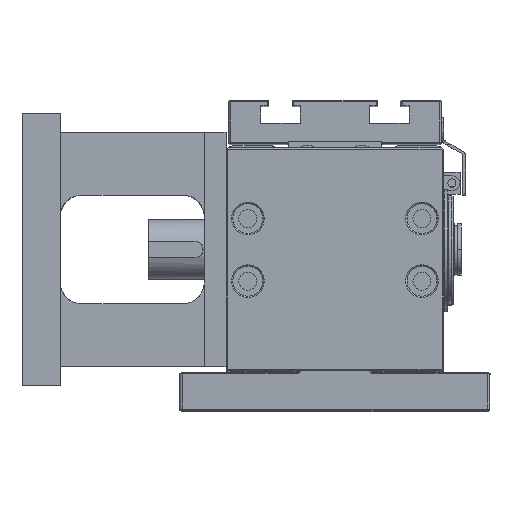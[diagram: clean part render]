
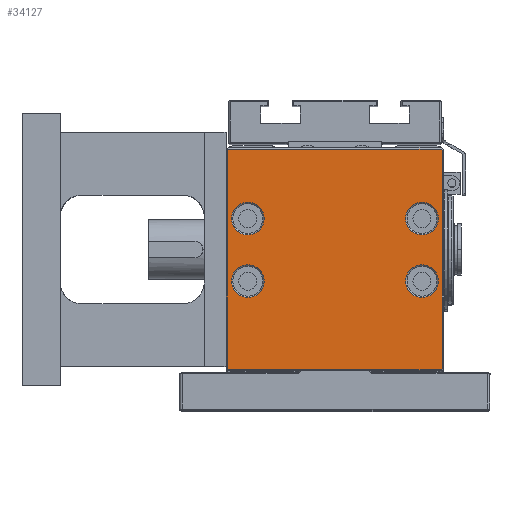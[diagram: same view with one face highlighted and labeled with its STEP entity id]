
A CAD part, top view. The second image highlights one B-rep face of the part: STEP entity #34127.
In plain terms, the highlighted planar face has unit normal (0, 0, 1).
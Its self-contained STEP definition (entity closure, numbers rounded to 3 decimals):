
#33231=CARTESIAN_POINT('',(-39.,81.,8.));
#33232=DIRECTION('',(0.,0.,-1.));
#33233=DIRECTION('',(-1.,0.,0.));
#33234=AXIS2_PLACEMENT_3D('',#33231,#33232,#33233);
#33236=DIRECTION('',(1.,0.,0.));
#33237=VECTOR('',#33236,78.);
#33238=CARTESIAN_POINT('',(-39.,81.5,
8.));
#33239=LINE('',#33238,#33237);
#33240=CARTESIAN_POINT('',(39.,81.,8.));
#33241=DIRECTION('',(0.,0.,-1.));
#33242=DIRECTION('',(0.,1.,0.));
#33243=AXIS2_PLACEMENT_3D('',#33240,#33241,#33242);
#33245=DIRECTION('',(0.,-1.,0.));
#33246=VECTOR('',#33245,80.);
#33247=CARTESIAN_POINT('',(39.5,81.,8.));
#33248=LINE('',#33247,#33246);
#33249=CARTESIAN_POINT('',(39.,1.,8.));
#33250=DIRECTION('',(0.,0.,-1.));
#33251=DIRECTION('',(1.,0.,0.));
#33252=AXIS2_PLACEMENT_3D('',#33249,#33250,#33251);
#33254=DIRECTION('',(-1.,0.,0.));
#33255=VECTOR('',#33254,78.);
#33256=CARTESIAN_POINT('',(39.,0.5,
8.));
#33257=LINE('',#33256,#33255);
#33258=CARTESIAN_POINT('',(-39.,1.,8.));
#33259=DIRECTION('',(0.,0.,-1.));
#33260=DIRECTION('',(0.,-1.,0.));
#33261=AXIS2_PLACEMENT_3D('',#33258,#33259,#33260);
#33263=DIRECTION('',(0.,1.,0.));
#33264=VECTOR('',#33263,80.);
#33265=CARTESIAN_POINT('',(-39.5,1.,
8.));
#33266=LINE('',#33265,#33264);
#33267=CARTESIAN_POINT('',(32.,56.,8.));
#33268=DIRECTION('',(0.,0.,1.));
#33269=DIRECTION('',(1.,0.,0.));
#33270=AXIS2_PLACEMENT_3D('',#33267,#33268,#33269);
#33272=CARTESIAN_POINT('',(32.,56.,8.));
#33273=DIRECTION('',(0.,0.,1.));
#33274=DIRECTION('',(0.,1.,0.));
#33275=AXIS2_PLACEMENT_3D('',#33272,#33273,#33274);
#33277=CARTESIAN_POINT('',(32.,56.,8.));
#33278=DIRECTION('',(0.,0.,1.));
#33279=DIRECTION('',(-1.,0.,0.));
#33280=AXIS2_PLACEMENT_3D('',#33277,#33278,#33279);
#33282=CARTESIAN_POINT('',(32.,56.,8.));
#33283=DIRECTION('',(0.,0.,1.));
#33284=DIRECTION('',(0.,-1.,0.));
#33285=AXIS2_PLACEMENT_3D('',#33282,#33283,#33284);
#33287=CARTESIAN_POINT('',(-32.,56.,8.));
#33288=DIRECTION('',(0.,0.,1.));
#33289=DIRECTION('',(1.,0.,0.));
#33290=AXIS2_PLACEMENT_3D('',#33287,#33288,#33289);
#33292=CARTESIAN_POINT('',(-32.,56.,8.));
#33293=DIRECTION('',(0.,0.,1.));
#33294=DIRECTION('',(0.,1.,0.));
#33295=AXIS2_PLACEMENT_3D('',#33292,#33293,#33294);
#33297=CARTESIAN_POINT('',(-32.,56.,8.));
#33298=DIRECTION('',(0.,0.,1.));
#33299=DIRECTION('',(-1.,0.,0.));
#33300=AXIS2_PLACEMENT_3D('',#33297,#33298,#33299);
#33302=CARTESIAN_POINT('',(-32.,56.,8.));
#33303=DIRECTION('',(0.,0.,1.));
#33304=DIRECTION('',(0.,-1.,0.));
#33305=AXIS2_PLACEMENT_3D('',#33302,#33303,#33304);
#33307=CARTESIAN_POINT('',(-32.,33.,8.));
#33308=DIRECTION('',(0.,0.,1.));
#33309=DIRECTION('',(1.,0.,0.));
#33310=AXIS2_PLACEMENT_3D('',#33307,#33308,#33309);
#33312=CARTESIAN_POINT('',(-32.,33.,8.));
#33313=DIRECTION('',(0.,0.,1.));
#33314=DIRECTION('',(0.,1.,0.));
#33315=AXIS2_PLACEMENT_3D('',#33312,#33313,#33314);
#33317=CARTESIAN_POINT('',(-32.,33.,8.));
#33318=DIRECTION('',(0.,0.,1.));
#33319=DIRECTION('',(-1.,0.,0.));
#33320=AXIS2_PLACEMENT_3D('',#33317,#33318,#33319);
#33322=CARTESIAN_POINT('',(-32.,33.,8.));
#33323=DIRECTION('',(0.,0.,1.));
#33324=DIRECTION('',(0.,-1.,0.));
#33325=AXIS2_PLACEMENT_3D('',#33322,#33323,#33324);
#33327=CARTESIAN_POINT('',(32.,33.,8.));
#33328=DIRECTION('',(0.,0.,1.));
#33329=DIRECTION('',(-1.,0.,0.));
#33330=AXIS2_PLACEMENT_3D('',#33327,#33328,#33329);
#33332=CARTESIAN_POINT('',(32.,33.,8.));
#33333=DIRECTION('',(0.,0.,1.));
#33334=DIRECTION('',(0.,-1.,0.));
#33335=AXIS2_PLACEMENT_3D('',#33332,#33333,#33334);
#33337=CARTESIAN_POINT('',(32.,33.,8.));
#33338=DIRECTION('',(0.,0.,1.));
#33339=DIRECTION('',(1.,0.,0.));
#33340=AXIS2_PLACEMENT_3D('',#33337,#33338,#33339);
#33342=CARTESIAN_POINT('',(32.,33.,8.));
#33343=DIRECTION('',(0.,0.,1.));
#33344=DIRECTION('',(0.,1.,0.));
#33345=AXIS2_PLACEMENT_3D('',#33342,#33343,#33344);
#33745=CARTESIAN_POINT('',(-32.,50.,8.));
#33746=CARTESIAN_POINT('',(-26.,56.,8.));
#33747=VERTEX_POINT('',#33745);
#33748=VERTEX_POINT('',#33746);
#33749=CARTESIAN_POINT('',(-38.,56.,8.));
#33750=VERTEX_POINT('',#33749);
#33751=CARTESIAN_POINT('',(-39.5,81.,8.));
#33752=CARTESIAN_POINT('',(-39.,81.5,8.));
#33753=VERTEX_POINT('',#33751);
#33754=VERTEX_POINT('',#33752);
#33755=CARTESIAN_POINT('',(39.,81.5,8.));
#33756=VERTEX_POINT('',#33755);
#33757=CARTESIAN_POINT('',(39.5,81.,8.));
#33758=VERTEX_POINT('',#33757);
#33759=CARTESIAN_POINT('',(39.5,1.,
8.));
#33760=VERTEX_POINT('',#33759);
#33761=CARTESIAN_POINT('',(39.,0.5,8.));
#33762=VERTEX_POINT('',#33761);
#33763=CARTESIAN_POINT('',(-39.,0.5,
8.));
#33764=VERTEX_POINT('',#33763);
#33765=CARTESIAN_POINT('',(-39.5,1.,8.));
#33766=VERTEX_POINT('',#33765);
#33767=CARTESIAN_POINT('',(32.,62.,8.));
#33768=CARTESIAN_POINT('',(26.,56.,8.));
#33769=VERTEX_POINT('',#33767);
#33770=VERTEX_POINT('',#33768);
#33771=CARTESIAN_POINT('',(38.,56.,8.));
#33772=VERTEX_POINT('',#33771);
#33773=CARTESIAN_POINT('',(32.,50.,8.));
#33774=VERTEX_POINT('',#33773);
#33775=CARTESIAN_POINT('',(-32.,62.,8.));
#33776=VERTEX_POINT('',#33775);
#33777=CARTESIAN_POINT('',(-32.,39.,8.));
#33778=CARTESIAN_POINT('',(-38.,33.,8.));
#33779=VERTEX_POINT('',#33777);
#33780=VERTEX_POINT('',#33778);
#33781=CARTESIAN_POINT('',(-26.,33.,8.));
#33782=VERTEX_POINT('',#33781);
#33783=CARTESIAN_POINT('',(-32.,27.,8.));
#33784=VERTEX_POINT('',#33783);
#33785=CARTESIAN_POINT('',(32.,27.,8.));
#33786=CARTESIAN_POINT('',(38.,33.,8.));
#33787=VERTEX_POINT('',#33785);
#33788=VERTEX_POINT('',#33786);
#33789=CARTESIAN_POINT('',(26.,33.,8.));
#33790=VERTEX_POINT('',#33789);
#33791=CARTESIAN_POINT('',(32.,39.,8.));
#33792=VERTEX_POINT('',#33791);
#34065=CARTESIAN_POINT('',(0.,0.,8.));
#34066=DIRECTION('',(0.,0.,1.));
#34067=DIRECTION('',(1.,0.,0.));
#34068=AXIS2_PLACEMENT_3D('',#34065,#34066,#34067);
#34069=PLANE('',#34068);
#34071=ORIENTED_EDGE('',*,*,#34070,.T.);
#34073=ORIENTED_EDGE('',*,*,#34072,.T.);
#34075=ORIENTED_EDGE('',*,*,#34074,.T.);
#34076=ORIENTED_EDGE('',*,*,#34055,.T.);
#34078=ORIENTED_EDGE('',*,*,#34077,.T.);
#34080=ORIENTED_EDGE('',*,*,#34079,.T.);
#34082=ORIENTED_EDGE('',*,*,#34081,.T.);
#34084=ORIENTED_EDGE('',*,*,#34083,.T.);
#34085=EDGE_LOOP('',(#34071,#34073,#34075,#34076,#34078,#34080,#34082,#34084));
#34086=FACE_OUTER_BOUND('',#34085,.F.);
#34088=ORIENTED_EDGE('',*,*,#34087,.T.);
#34090=ORIENTED_EDGE('',*,*,#34089,.T.);
#34092=ORIENTED_EDGE('',*,*,#34091,.T.);
#34094=ORIENTED_EDGE('',*,*,#34093,.T.);
#34095=EDGE_LOOP('',(#34088,#34090,#34092,#34094));
#34096=FACE_BOUND('',#34095,.F.);
#34098=ORIENTED_EDGE('',*,*,#34097,.T.);
#34100=ORIENTED_EDGE('',*,*,#34099,.T.);
#34102=ORIENTED_EDGE('',*,*,#34101,.T.);
#34104=ORIENTED_EDGE('',*,*,#34103,.T.);
#34105=EDGE_LOOP('',(#34098,#34100,#34102,#34104));
#34106=FACE_BOUND('',#34105,.F.);
#34108=ORIENTED_EDGE('',*,*,#34107,.T.);
#34110=ORIENTED_EDGE('',*,*,#34109,.T.);
#34112=ORIENTED_EDGE('',*,*,#34111,.T.);
#34114=ORIENTED_EDGE('',*,*,#34113,.T.);
#34115=EDGE_LOOP('',(#34108,#34110,#34112,#34114));
#34116=FACE_BOUND('',#34115,.F.);
#34118=ORIENTED_EDGE('',*,*,#34117,.T.);
#34120=ORIENTED_EDGE('',*,*,#34119,.T.);
#34122=ORIENTED_EDGE('',*,*,#34121,.T.);
#34124=ORIENTED_EDGE('',*,*,#34123,.T.);
#34125=EDGE_LOOP('',(#34118,#34120,#34122,#34124));
#34126=FACE_BOUND('',#34125,.F.);
#33235=CIRCLE('',#33234,0.5);
#33244=CIRCLE('',#33243,0.5);
#33253=CIRCLE('',#33252,0.5);
#33262=CIRCLE('',#33261,0.5);
#33271=CIRCLE('',#33270,6.);
#33276=CIRCLE('',#33275,6.);
#33281=CIRCLE('',#33280,6.);
#33286=CIRCLE('',#33285,6.);
#33291=CIRCLE('',#33290,6.);
#33296=CIRCLE('',#33295,6.);
#33301=CIRCLE('',#33300,6.);
#33306=CIRCLE('',#33305,6.);
#33311=CIRCLE('',#33310,6.);
#33316=CIRCLE('',#33315,6.);
#33321=CIRCLE('',#33320,6.);
#33326=CIRCLE('',#33325,6.);
#33331=CIRCLE('',#33330,6.);
#33336=CIRCLE('',#33335,6.);
#33341=CIRCLE('',#33340,6.);
#33346=CIRCLE('',#33345,6.);
#34055=EDGE_CURVE('',#33758,#33760,#33248,.T.);
#34070=EDGE_CURVE('',#33753,#33754,#33235,.T.);
#34072=EDGE_CURVE('',#33754,#33756,#33239,.T.);
#34074=EDGE_CURVE('',#33756,#33758,#33244,.T.);
#34077=EDGE_CURVE('',#33760,#33762,#33253,.T.);
#34079=EDGE_CURVE('',#33762,#33764,#33257,.T.);
#34081=EDGE_CURVE('',#33764,#33766,#33262,.T.);
#34083=EDGE_CURVE('',#33766,#33753,#33266,.T.);
#34087=EDGE_CURVE('',#33772,#33769,#33271,.T.);
#34089=EDGE_CURVE('',#33769,#33770,#33276,.T.);
#34091=EDGE_CURVE('',#33770,#33774,#33281,.T.);
#34093=EDGE_CURVE('',#33774,#33772,#33286,.T.);
#34097=EDGE_CURVE('',#33748,#33776,#33291,.T.);
#34099=EDGE_CURVE('',#33776,#33750,#33296,.T.);
#34101=EDGE_CURVE('',#33750,#33747,#33301,.T.);
#34103=EDGE_CURVE('',#33747,#33748,#33306,.T.);
#34107=EDGE_CURVE('',#33782,#33779,#33311,.T.);
#34109=EDGE_CURVE('',#33779,#33780,#33316,.T.);
#34111=EDGE_CURVE('',#33780,#33784,#33321,.T.);
#34113=EDGE_CURVE('',#33784,#33782,#33326,.T.);
#34117=EDGE_CURVE('',#33790,#33787,#33331,.T.);
#34119=EDGE_CURVE('',#33787,#33788,#33336,.T.);
#34121=EDGE_CURVE('',#33788,#33792,#33341,.T.);
#34123=EDGE_CURVE('',#33792,#33790,#33346,.T.);
#34127=ADVANCED_FACE('',(#34086,#34096,#34106,#34116,#34126),#34069,.T.);
